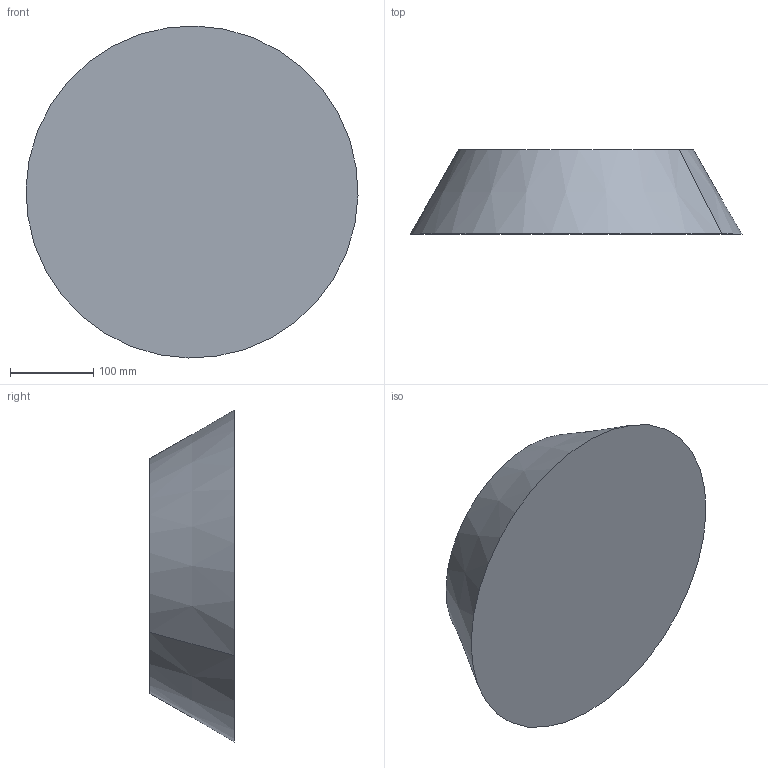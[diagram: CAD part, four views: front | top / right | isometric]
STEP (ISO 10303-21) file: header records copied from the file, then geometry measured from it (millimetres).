
FILE_DESCRIPTION(('CATIA V5 STEP Exchange'),'2;1');
FILE_NAME('C:\_Andres\UNIVERSIDAD\IQS\ASIGNATURAS\DAO\EXF\EXF-16172c\2inicio\Altirriba_Cusco_Ej09_v1.stp','2017-03-05T22:13:09+00:00',('none'),('none'),'CATIA Version 5-6 Release 2014 SP1 HF18','CATIA V5 STEP AP203','none');
FILE_SCHEMA(('CONFIG_CONTROL_DESIGN'));
Length unit declared in the file: millimetre
Products named in the file (1): Altirriba_Cusco_Ej09_v1
Bounding box: 397.89 x 101 x 397.89 mm (x, y, z)
Volume: 9235209.3 mm3; surface area: 313248.2 mm2
Topology: 1 solids, 2 shells, 8 faces, 12 edges, 8 vertices
Faces by surface type: plane 4, cone 2, cylinder 2
Entity records: 205 total; most frequent: CARTESIAN_POINT 27, DIRECTION 24, ORIENTED_EDGE 24, AXIS2_PLACEMENT_3D 15, EDGE_CURVE 12, ADVANCED_FACE 8, CIRCLE 8, EDGE_LOOP 8
